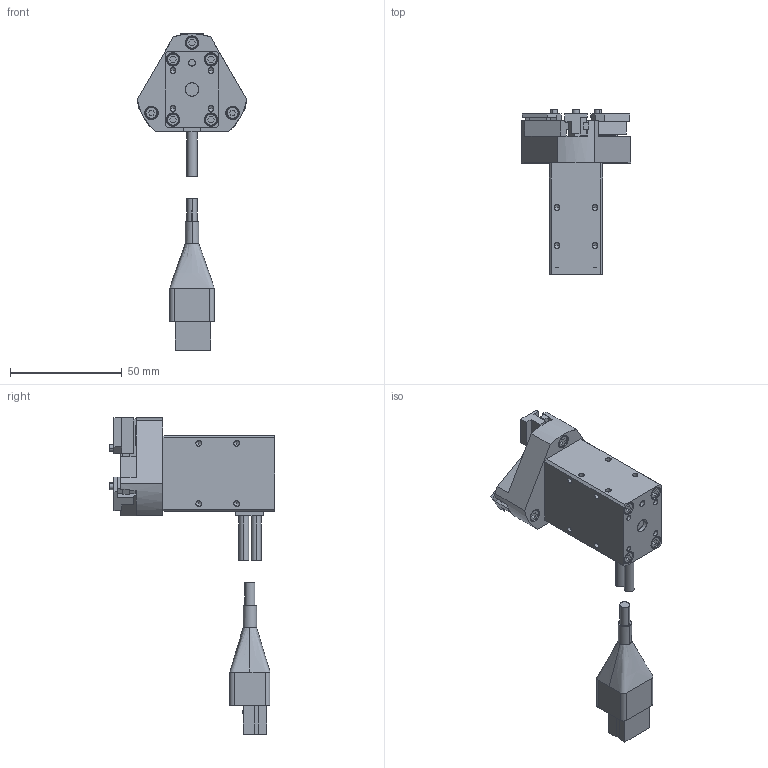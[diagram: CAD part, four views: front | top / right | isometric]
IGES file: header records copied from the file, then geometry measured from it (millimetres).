
Start section: SolidWorks IGES file using analytic representation for surfaces
Global section: file name: G:\SW2007図面\TAIYO\電動機器３Ｄ\電動グリッパ　3爪\ESG1-ST-2013.IGS; native system: SolidWorks 2007; preprocessor: SolidWorks 2007; author: 風音庵,,1; organization: 1; date: 090212.162733; units: millimetre
Bounding box: 49.16 x 74 x 141.89 mm (x, y, z)
Surface area: 24110.9 mm2 (no closed solid volume)
Topology: 0 solids, 0 shells, 470 faces, 4478 edges, 4438 vertices
Faces by surface type: bspline 307, revolution 163
